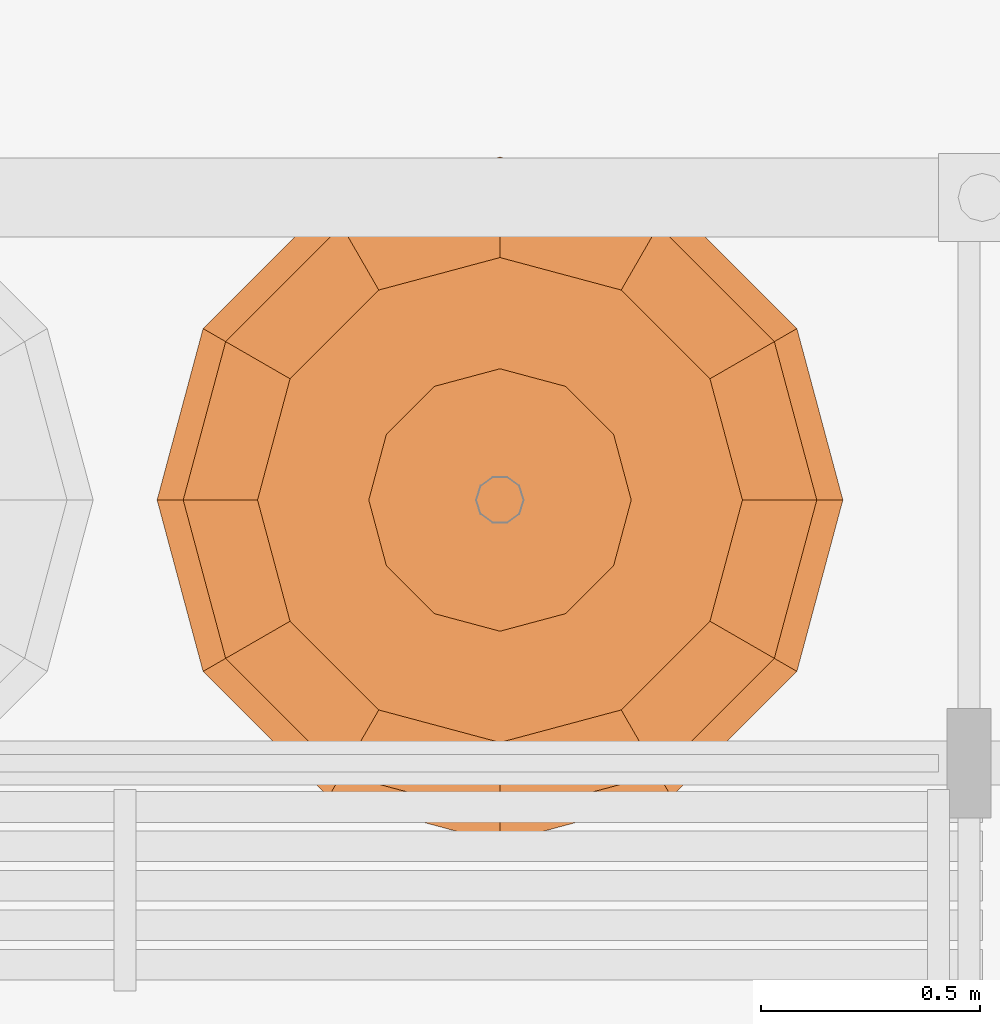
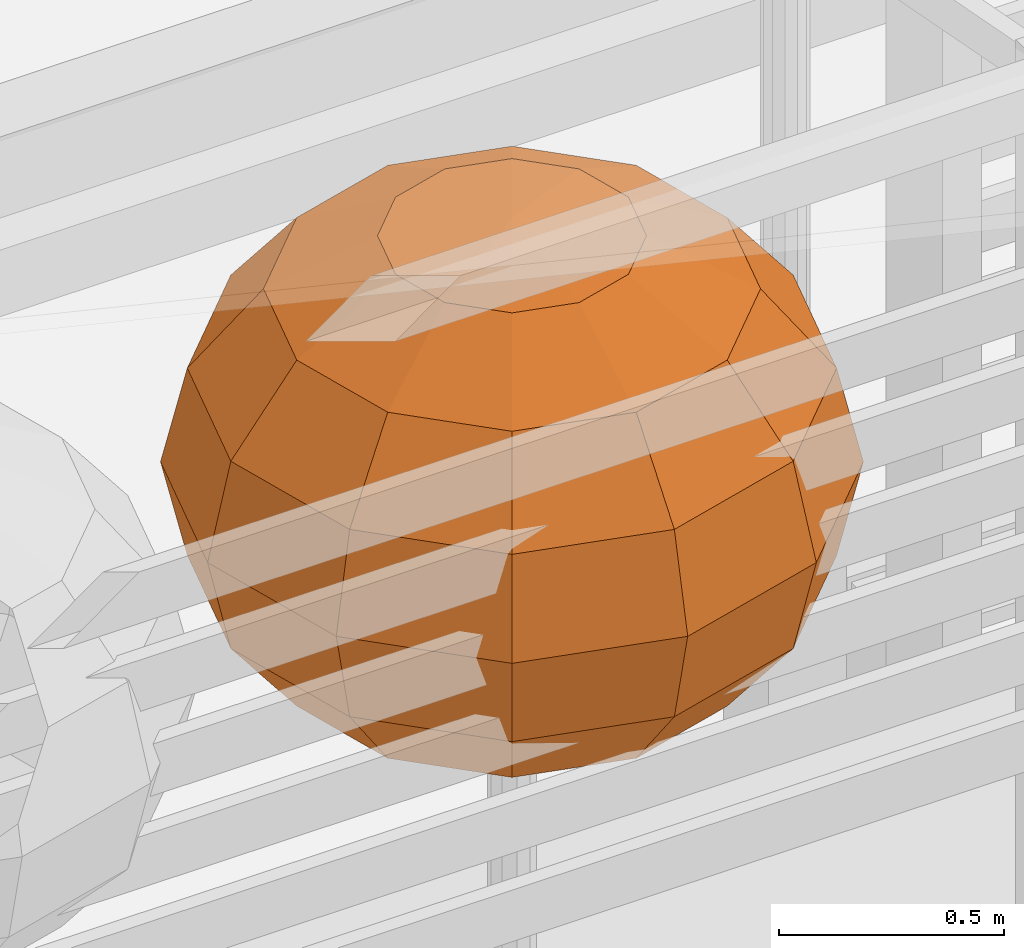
# One storey, part 158 of 166: 1 proxy.
"""IFC2X3 building model written with IfcOpenShell, lengths in metres."""

from ifc_helpers import new_model, si_unit, origin, origin_with_axes, place, context, subcontext, project, spatial, faceted_brep, element, save


model = new_model("IFC2X3")

# Units and contexts
model_context = context("Model", 3, precision=1e-05, world=origin_with_axes())
body_context = subcontext(model_context, "Body", "Model", "MODEL_VIEW")
ifc_project = project(units=[si_unit("LENGTHUNIT", "METRE"), si_unit("AREAUNIT", "SQUARE_METRE"), si_unit("VOLUMEUNIT", "CUBIC_METRE"), si_unit("PLANEANGLEUNIT", "RADIAN")], contexts=[model_context])

# Site, building, storey
site_placement = place(None, origin_with_axes())
site = spatial("IfcSite", under=ifc_project, at=site_placement, Name="Predio Los Mangos - Morales, San Martín", CompositionType="ELEMENT")
building_placement = place(site_placement, origin())
building = spatial("IfcBuilding", under=site, at=building_placement, Name="Hogar de Refugio Temporal", CompositionType="ELEMENT")
storey_placement = place(building_placement, origin())
storey = spatial("IfcBuildingStorey", under=building, at=storey_placement, Name="NIVEL 1 (NPT +0.00)", CompositionType="ELEMENT", Elevation=0.0)

# Proxy
proxy_placement = place(storey_placement, origin())
element("IfcBuildingElementProxy", 1, at=proxy_placement, inside=storey, Name="arbol_copa", ObjectType="Árbol", context=body_context, shape_type="Brep", body=[
    faceted_brep([(35.655, 74.4, 2.5172), (35.655, 74.4, 2.5172), (35.9142, 74.5496, 2.4666), (35.9543, 74.4, 2.4666), (35.655, 74.4, 2.5172), (35.8046, 74.6592, 2.4666), (35.655, 74.4, 2.5172), (35.655, 74.6993, 2.4666), (35.655, 74.4, 2.5172), (35.5054, 74.6592, 2.4666), (35.655, 74.4, 2.5172), (35.3958, 74.5496, 2.4666), (35.655, 74.4, 2.5172), (35.3557, 74.4, 2.4666), (35.655, 74.4, 2.5172), (35.3958, 74.2504, 2.4666), (35.655, 74.4, 2.5172), (35.5054, 74.1408, 2.4666), (35.655, 74.4, 2.5172), (35.655, 74.1007, 2.4666), (35.655, 74.4, 2.5172), (35.8046, 74.1408, 2.4666), (35.655, 74.4, 2.5172), (35.9142, 74.2504, 2.4666), (36.1339, 74.6765, 2.3225), (36.208, 74.4, 2.3225), (35.9315, 74.8789, 2.3225), (35.655, 74.953, 2.3225), (35.3785, 74.8789, 2.3225), (35.1761, 74.6765, 2.3225), (35.102, 74.4, 2.3225), (35.1761, 74.1235, 2.3225), (35.3785, 73.9211, 2.3225), (35.655, 73.847, 2.3225), (35.9315, 73.9211, 2.3225), (36.1339, 74.1235, 2.3225), (36.2807, 74.7612, 2.1069), (36.3775, 74.4, 2.1069), (36.0162, 75.0257, 2.1069), (35.655, 75.1225, 2.1069), (35.2938, 75.0257, 2.1069), (35.0293, 74.7612, 2.1069), (34.9325, 74.4, 2.1069), (35.0293, 74.0388, 2.1069), (35.2938, 73.7743, 2.1069), (35.655, 73.6775, 2.1069), (36.0162, 73.7743, 2.1069), (36.2807, 74.0388, 2.1069), (36.3322, 74.791, 1.8525), (36.437, 74.4, 1.8525), (36.046, 75.0772, 1.8525), (35.655, 75.182, 1.8525), (35.264, 75.0772, 1.8525), (34.9778, 74.791, 1.8525), (34.873, 74.4, 1.8525), (34.9778, 74.009, 1.8525), (35.264, 73.7228, 1.8525), (35.655, 73.618, 1.8525), (36.046, 73.7228, 1.8525), (36.3322, 74.009, 1.8525), (36.2807, 74.7612, 1.5981), (36.3775, 74.4, 1.5981), (36.0162, 75.0257, 1.5981), (35.655, 75.1225, 1.5981), (35.2938, 75.0257, 1.5981), (35.0293, 74.7612, 1.5981), (34.9325, 74.4, 1.5981), (35.0293, 74.0388, 1.5981), (35.2938, 73.7743, 1.5981), (35.655, 73.6775, 1.5981), (36.0162, 73.7743, 1.5981), (36.2807, 74.0388, 1.5981), (36.1339, 74.6765, 1.3825), (36.208, 74.4, 1.3825), (35.9315, 74.8789, 1.3825), (35.655, 74.953, 1.3825), (35.3785, 74.8789, 1.3825), (35.1761, 74.6765, 1.3825), (35.102, 74.4, 1.3825), (35.1761, 74.1235, 1.3825), (35.3785, 73.9211, 1.3825), (35.655, 73.847, 1.3825), (35.9315, 73.9211, 1.3825), (36.1339, 74.1235, 1.3825), (35.9142, 74.5496, 1.2384), (35.9543, 74.4, 1.2384), (35.8046, 74.6592, 1.2384), (35.655, 74.6993, 1.2384), (35.5054, 74.6592, 1.2384), (35.3958, 74.5496, 1.2384), (35.3557, 74.4, 1.2384), (35.3958, 74.2504, 1.2384), (35.5054, 74.1408, 1.2384), (35.655, 74.1007, 1.2384), (35.8046, 74.1408, 1.2384), (35.9142, 74.2504, 1.2384), (35.655, 74.4, 1.1878), (35.655, 74.4, 1.1878), (35.655, 74.4, 1.1878), (35.655, 74.4, 1.1878), (35.655, 74.4, 1.1878), (35.655, 74.4, 1.1878), (35.655, 74.4, 1.1878), (35.655, 74.4, 1.1878), (35.655, 74.4, 1.1878), (35.655, 74.4, 1.1878), (35.655, 74.4, 1.1878), (35.655, 74.4, 1.1878)], [[[0, 1, 2]], [[0, 2, 3]], [[1, 4, 5]], [[1, 5, 2]], [[4, 6, 7]], [[4, 7, 5]], [[6, 8, 9]], [[6, 9, 7]], [[8, 10, 11]], [[8, 11, 9]], [[10, 12, 13]], [[10, 13, 11]], [[12, 14, 15]], [[12, 15, 13]], [[14, 16, 17]], [[14, 17, 15]], [[16, 18, 19]], [[16, 19, 17]], [[18, 20, 21]], [[18, 21, 19]], [[20, 22, 23]], [[20, 23, 21]], [[22, 0, 3]], [[22, 3, 23]], [[3, 2, 24]], [[3, 24, 25]], [[2, 5, 26]], [[2, 26, 24]], [[5, 7, 27]], [[5, 27, 26]], [[7, 9, 28]], [[7, 28, 27]], [[9, 11, 29]], [[9, 29, 28]], [[11, 13, 30]], [[11, 30, 29]], [[13, 15, 31]], [[13, 31, 30]], [[15, 17, 32]], [[15, 32, 31]], [[17, 19, 33]], [[17, 33, 32]], [[19, 21, 34]], [[19, 34, 33]], [[21, 23, 35]], [[21, 35, 34]], [[23, 3, 25]], [[23, 25, 35]], [[25, 24, 36]], [[25, 36, 37]], [[24, 26, 38]], [[24, 38, 36]], [[26, 27, 39]], [[26, 39, 38]], [[27, 28, 40]], [[27, 40, 39]], [[28, 29, 41]], [[28, 41, 40]], [[29, 30, 42]], [[29, 42, 41]], [[30, 31, 43]], [[30, 43, 42]], [[31, 32, 44]], [[31, 44, 43]], [[32, 33, 45]], [[32, 45, 44]], [[33, 34, 46]], [[33, 46, 45]], [[34, 35, 47]], [[34, 47, 46]], [[35, 25, 37]], [[35, 37, 47]], [[37, 36, 48]], [[37, 48, 49]], [[36, 38, 50]], [[36, 50, 48]], [[38, 39, 51]], [[38, 51, 50]], [[39, 40, 52]], [[39, 52, 51]], [[40, 41, 53]], [[40, 53, 52]], [[41, 42, 54]], [[41, 54, 53]], [[42, 43, 55]], [[42, 55, 54]], [[43, 44, 56]], [[43, 56, 55]], [[44, 45, 57]], [[44, 57, 56]], [[45, 46, 58]], [[45, 58, 57]], [[46, 47, 59]], [[46, 59, 58]], [[47, 37, 49]], [[47, 49, 59]], [[49, 48, 60]], [[49, 60, 61]], [[48, 50, 62]], [[48, 62, 60]], [[50, 51, 63]], [[50, 63, 62]], [[51, 52, 64]], [[51, 64, 63]], [[52, 53, 65]], [[52, 65, 64]], [[53, 54, 66]], [[53, 66, 65]], [[54, 55, 67]], [[54, 67, 66]], [[55, 56, 68]], [[55, 68, 67]], [[56, 57, 69]], [[56, 69, 68]], [[57, 58, 70]], [[57, 70, 69]], [[58, 59, 71]], [[58, 71, 70]], [[59, 49, 61]], [[59, 61, 71]], [[61, 60, 72]], [[61, 72, 73]], [[60, 62, 74]], [[60, 74, 72]], [[62, 63, 75]], [[62, 75, 74]], [[63, 64, 76]], [[63, 76, 75]], [[64, 65, 77]], [[64, 77, 76]], [[65, 66, 78]], [[65, 78, 77]], [[66, 67, 79]], [[66, 79, 78]], [[67, 68, 80]], [[67, 80, 79]], [[68, 69, 81]], [[68, 81, 80]], [[69, 70, 82]], [[69, 82, 81]], [[70, 71, 83]], [[70, 83, 82]], [[71, 61, 73]], [[71, 73, 83]], [[73, 72, 84]], [[73, 84, 85]], [[72, 74, 86]], [[72, 86, 84]], [[74, 75, 87]], [[74, 87, 86]], [[75, 76, 88]], [[75, 88, 87]], [[76, 77, 89]], [[76, 89, 88]], [[77, 78, 90]], [[77, 90, 89]], [[78, 79, 91]], [[78, 91, 90]], [[79, 80, 92]], [[79, 92, 91]], [[80, 81, 93]], [[80, 93, 92]], [[81, 82, 94]], [[81, 94, 93]], [[82, 83, 95]], [[82, 95, 94]], [[83, 73, 85]], [[83, 85, 95]], [[85, 84, 96]], [[85, 96, 97]], [[84, 86, 98]], [[84, 98, 96]], [[86, 87, 99]], [[86, 99, 98]], [[87, 88, 100]], [[87, 100, 99]], [[88, 89, 101]], [[88, 101, 100]], [[89, 90, 102]], [[89, 102, 101]], [[90, 91, 103]], [[90, 103, 102]], [[91, 92, 104]], [[91, 104, 103]], [[92, 93, 105]], [[92, 105, 104]], [[93, 94, 106]], [[93, 106, 105]], [[94, 95, 107]], [[94, 107, 106]], [[95, 85, 97]], [[95, 97, 107]]]),
])

save(model, "model.ifc")
